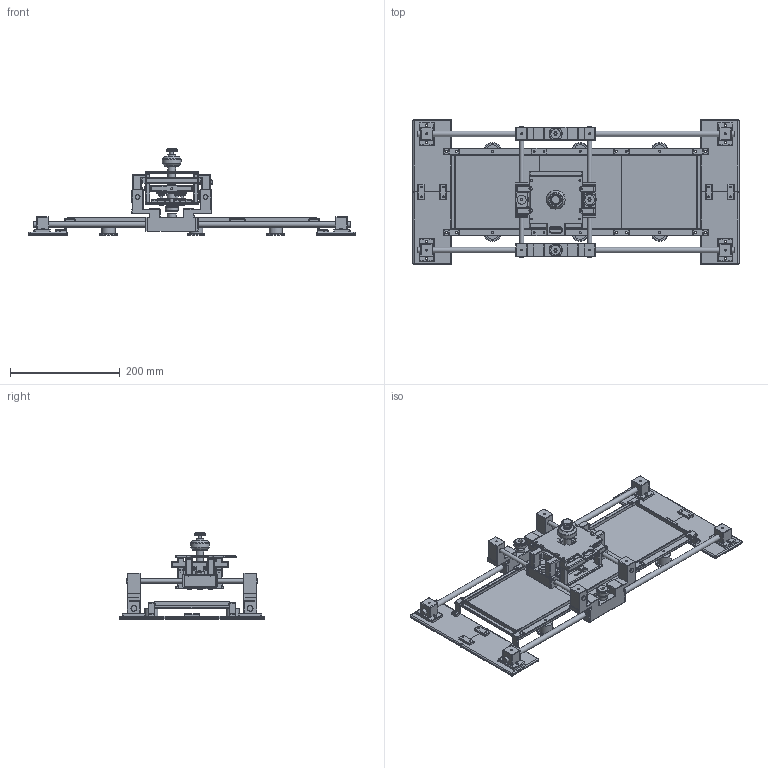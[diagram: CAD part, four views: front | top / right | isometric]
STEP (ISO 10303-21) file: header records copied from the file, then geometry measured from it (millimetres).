
FILE_DESCRIPTION(('Open CASCADE Model'),'2;1');
FILE_NAME('Open CASCADE Shape Model','2026-10-14T14:01:28',('Author'),( 'Open CASCADE'),'Open CASCADE STEP processor 7.8','Open CASCADE 7.8' ,'Unknown');
FILE_SCHEMA(('AUTOMOTIVE_DESIGN { 1 0 10303 214 1 1 1 1 }'));
Length unit declared in the file: millimetre
Products named in the file (38): Adaptive_Keyboard_V5_Assembly; 01_FIXED_FRAME; C03_base_left_front__01; C03_base_left_rear__01; C03_base_right_front__01; C03_base_right_rear__01; R04_splice_bar__05; R06_low_x_rail_post__01; ROD_X_10mm_580mm__01; 02_RAISED_TRAY; C01_raised_tray_1__01; C01_raised_tray_2__01; C01_raised_tray_3__01; R02_tray_pedestal_20mm__01; R05_tray_to_stage_step_bracket__01; 03_XY_BRIDGE; C07_bridge_x_foot__01; R08_x_bearing_end_cap__01; 16_m4_drag_knob__01; LM10UU_ENVELOPE__01; ROD_Y_8mm_240mm__01; 04_HEAD_CARRIAGES; C09_y_carriage_with_head_legs__01; C10_y_bearing_end_cap__01; LM8UU_ENVELOPE__01; 05_FIVE_KEY_HEAD; 06_x_carriage_upper__01; 07_head_stator__01; 11_outer_gimbal__01; 12_joystick_cam_stem__01; 13_cross_gate_transport_loop__01; 14_hollow_grip__01; 15_center_pushrod_button__01; 17_center_return_stop_collar__01; 08_plunger_guide__01; 09_direction_plunger__01; 10_contact_foot__01; 18_outer_pivot_head_spacer__01
Assembly tree (84 placements, depth 3):
  Adaptive_Keyboard_V5_Assembly
    01_FIXED_FRAME
      C03_base_left_front__01
      C03_base_left_rear__01
      C03_base_right_front__01
      C03_base_right_rear__01
      R04_splice_bar__05  x4
      R06_low_x_rail_post__01  x4
      ROD_X_10mm_580mm__01  x2
    02_RAISED_TRAY
      C01_raised_tray_1__01
      C01_raised_tray_2__01
      C01_raised_tray_3__01
      R02_tray_pedestal_20mm__01  x6
      R04_splice_bar__05  x4
      R05_tray_to_stage_step_bracket__01  x4
    03_XY_BRIDGE
      C07_bridge_x_foot__01  x2
      R08_x_bearing_end_cap__01  x4
      16_m4_drag_knob__01  x2
      LM10UU_ENVELOPE__01  x4
      ROD_Y_8mm_240mm__01  x2
    04_HEAD_CARRIAGES
      C09_y_carriage_with_head_legs__01  x2
      C10_y_bearing_end_cap__01  x4
      16_m4_drag_knob__01
      LM8UU_ENVELOPE__01  x4
    05_FIVE_KEY_HEAD
      06_x_carriage_upper__01
      07_head_stator__01
      11_outer_gimbal__01
      12_joystick_cam_stem__01
      13_cross_gate_transport_loop__01
      14_hollow_grip__01
      15_center_pushrod_button__01
      17_center_return_stop_collar__01
      08_plunger_guide__01  x4
      09_direction_plunger__01  x4
      10_contact_foot__01  x5
      18_outer_pivot_head_spacer__01  x2
Bounding box: 594.65 x 264.09 x 158 mm (x, y, z)
Volume: 1410609.5 mm3; surface area: 581699.1 mm2
Topology: 79 solids, 79 shells, 3324 faces, 8303 edges, 4994 vertices
Faces by surface type: plane 1784, cylinder 1200, sphere 293, torus 33, bspline 7, revolution 4, cone 3
Full cylindrical faces by diameter (mm): 2.7 x21, 3.4 x143, 4.4 x27, 5 x4, 5.6 x4, 6.2 x6, 6.4 x1, 6.6 x1, 6.8 x2, 8 x9, 8.1 x4, 8.4 x4, 8.45 x6, 8.8 x4, 8.9 x4, 10 x2, 10.1 x4, 10.45 x6, 10.5 x5, 10.9 x4, 12 x4, 14 x2, 14.5 x1, 15 x4, 15.2 x4, 16 x5, 18 x3, 19 x4, 19.2 x4, 20 x1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
Entity records: 60970 total; most frequent: CARTESIAN_POINT 11869, DIRECTION 10233, ORIENTED_EDGE 9714, EDGE_CURVE 4857, LINE 3441, VECTOR 3441, AXIS2_PLACEMENT_3D 3394, VERTEX_POINT 3042
